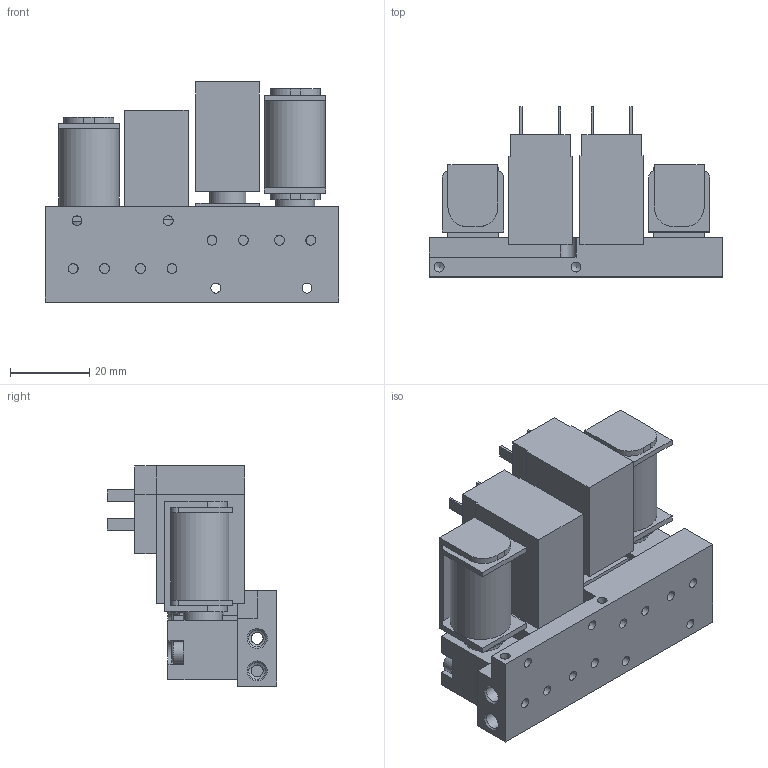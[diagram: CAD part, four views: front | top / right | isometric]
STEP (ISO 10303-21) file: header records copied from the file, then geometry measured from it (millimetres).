
FILE_DESCRIPTION (( 'STEP AP203' ), '1' );
FILE_NAME ('0222_FOEM-AsmEmbase.STEP', '2022-02-15T10:39:45', ( '' ), ( '' ), 'SwSTEP 2.0', 'SolidWorks 2020', '' );
FILE_SCHEMA (( 'CONFIG_CONTROL_DESIGN' ));
Length unit declared in the file: millimetre
Products named in the file (5): 0222_FOEM-AsmEmbase; EV_tor_provis; EmbaseOEM_LineUp; EV_prop_provis; socket head cap screw_am_B18.3.1M - 3 x 0.5 x 16 Hex SHCS -- 16SHX
Assembly tree (13 placements, depth 2):
  0222_FOEM-AsmEmbase
    EmbaseOEM_LineUp
    EV_prop_provis  x2
    socket head cap screw_am_B18.3.1M - 3 x 0.5 x 16 Hex SHCS -- 16SHX  x8
    EV_tor_provis  x2
Bounding box: 74 x 42.85 x 55.47 mm (x, y, z)
Volume: 61425.5 mm3; surface area: 30120.1 mm2
Topology: 15 solids, 15 shells, 1195 faces, 2543 edges, 1410 vertices
Faces by surface type: cone 532, cylinder 359, plane 296, torus 8
Full cylindrical faces by diameter (mm): 2.5 x16, 3 x283, 3.2 x8, 4.2 x4, 5.5 x8, 6 x8, 9.2 x2, 9.8 x2
Entity records: 8467 total; most frequent: CARTESIAN_POINT 1527, DIRECTION 1346, ORIENTED_EDGE 988, AXIS2_PLACEMENT_3D 555, EDGE_LOOP 540, EDGE_CURVE 494, VERTEX_POINT 392, FACE_OUTER_BOUND 392
